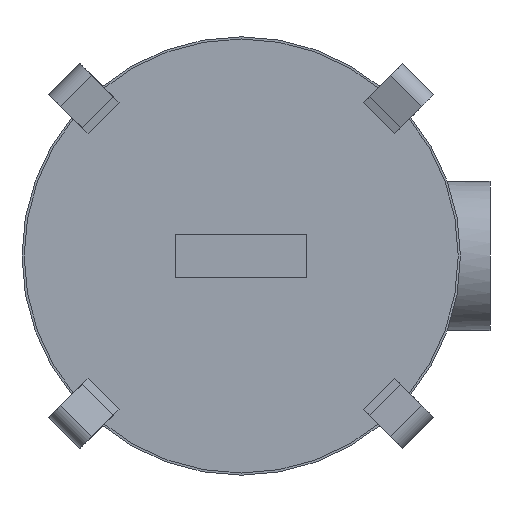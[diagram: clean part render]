
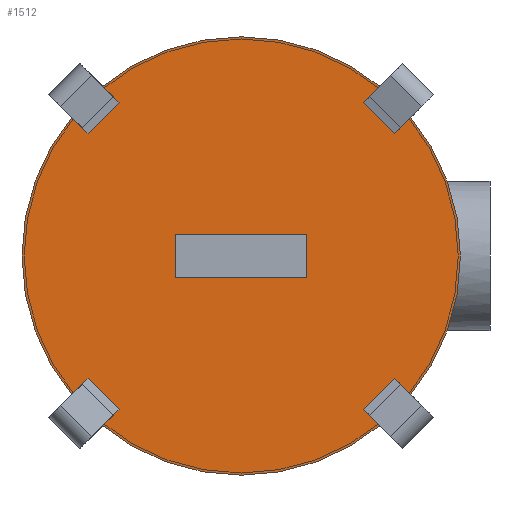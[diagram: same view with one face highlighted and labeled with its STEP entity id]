
A CAD part, front view. The second image highlights one B-rep face of the part: STEP entity #1512.
In plain terms, the highlighted planar face has unit normal (0, -1, 0).
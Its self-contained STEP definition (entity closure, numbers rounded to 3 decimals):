
#13=DIRECTION('',(-0.707,0.,0.707));
#14=VECTOR('',#13,3.788);
#15=CARTESIAN_POINT('',(58.427,-284.,-72.569));
#16=LINE('',#15,#14);
#17=DIRECTION('',(0.707,0.,0.707));
#18=VECTOR('',#17,20.);
#19=CARTESIAN_POINT('',(58.427,-284.,-72.569));
#20=LINE('',#19,#18);
#21=DIRECTION('',(-0.707,0.,0.707));
#22=VECTOR('',#21,3.788);
#23=CARTESIAN_POINT('',(72.569,-284.,-58.427));
#24=LINE('',#23,#22);
#25=DIRECTION('',(0.707,0.,0.707));
#26=VECTOR('',#25,20.);
#27=CARTESIAN_POINT('',(55.748,-284.,-69.89));
#28=LINE('',#27,#26);
#29=DIRECTION('',(0.707,0.,0.707));
#30=VECTOR('',#29,3.788);
#31=CARTESIAN_POINT('',(-72.569,-284.,-58.427));
#32=LINE('',#31,#30);
#33=DIRECTION('',(0.707,0.,-0.707));
#34=VECTOR('',#33,20.);
#35=CARTESIAN_POINT('',(-72.569,-284.,-58.427));
#36=LINE('',#35,#34);
#37=DIRECTION('',(0.707,0.,0.707));
#38=VECTOR('',#37,3.788);
#39=CARTESIAN_POINT('',(-58.427,-284.,-72.569));
#40=LINE('',#39,#38);
#41=DIRECTION('',(0.707,0.,-0.707));
#42=VECTOR('',#41,20.);
#43=CARTESIAN_POINT('',(-69.89,-284.,-55.748));
#44=LINE('',#43,#42);
#45=DIRECTION('',(0.707,0.,-0.707));
#46=VECTOR('',#45,3.788);
#47=CARTESIAN_POINT('',(-58.427,-284.,72.569));
#48=LINE('',#47,#46);
#49=DIRECTION('',(-0.707,0.,-0.707));
#50=VECTOR('',#49,20.);
#51=CARTESIAN_POINT('',(-58.427,-284.,72.569));
#52=LINE('',#51,#50);
#53=DIRECTION('',(0.707,0.,-0.707));
#54=VECTOR('',#53,3.788);
#55=CARTESIAN_POINT('',(-72.569,-284.,58.427));
#56=LINE('',#55,#54);
#57=DIRECTION('',(-0.707,0.,-0.707));
#58=VECTOR('',#57,20.);
#59=CARTESIAN_POINT('',(-55.748,-284.,69.89));
#60=LINE('',#59,#58);
#61=DIRECTION('',(-0.707,0.,-0.707));
#62=VECTOR('',#61,3.788);
#63=CARTESIAN_POINT('',(72.569,-284.,58.427));
#64=LINE('',#63,#62);
#65=DIRECTION('',(-0.707,0.,0.707));
#66=VECTOR('',#65,20.);
#67=CARTESIAN_POINT('',(72.569,-284.,58.427));
#68=LINE('',#67,#66);
#69=DIRECTION('',(-0.707,0.,-0.707));
#70=VECTOR('',#69,3.788);
#71=CARTESIAN_POINT('',(58.427,-284.,72.569));
#72=LINE('',#71,#70);
#73=DIRECTION('',(-0.707,0.,0.707));
#74=VECTOR('',#73,20.);
#75=CARTESIAN_POINT('',(69.89,-284.,55.748));
#76=LINE('',#75,#74);
#77=DIRECTION('',(0.,0.,-1.));
#78=VECTOR('',#77,20.);
#79=CARTESIAN_POINT('',(-30.,-284.,10.));
#80=LINE('',#79,#78);
#81=DIRECTION('',(1.,0.,0.));
#82=VECTOR('',#81,60.);
#83=CARTESIAN_POINT('',(-30.,-284.,-10.));
#84=LINE('',#83,#82);
#85=DIRECTION('',(0.,0.,1.));
#86=VECTOR('',#85,20.);
#87=CARTESIAN_POINT('',(30.,-284.,-10.));
#88=LINE('',#87,#86);
#89=DIRECTION('',(-1.,0.,0.));
#90=VECTOR('',#89,60.);
#91=CARTESIAN_POINT('',(30.,-284.,10.));
#92=LINE('',#91,#90);
#501=CARTESIAN_POINT('',(0.,-284.,0.));
#502=DIRECTION('',(0.,-1.,0.));
#503=DIRECTION('',(0.,0.,-1.));
#504=AXIS2_PLACEMENT_3D('',#501,#502,#503);
#514=CARTESIAN_POINT('',(0.,-284.,0.));
#515=DIRECTION('',(0.,1.,0.));
#516=DIRECTION('',(0.,0.,-1.));
#517=AXIS2_PLACEMENT_3D('',#514,#515,#516);
#1151=CARTESIAN_POINT('',(0.,-284.,-100.));
#1153=VERTEX_POINT('',#1151);
#1163=CARTESIAN_POINT('',(0.,-284.,100.));
#1165=VERTEX_POINT('',#1163);
#1239=CARTESIAN_POINT('',(72.569,-284.,58.427));
#1240=CARTESIAN_POINT('',(69.89,-284.,55.748));
#1241=VERTEX_POINT('',#1239);
#1242=VERTEX_POINT('',#1240);
#1243=CARTESIAN_POINT('',(58.427,-284.,72.569));
#1244=CARTESIAN_POINT('',(55.748,-284.,69.89));
#1245=VERTEX_POINT('',#1243);
#1246=VERTEX_POINT('',#1244);
#1287=CARTESIAN_POINT('',(-58.427,-284.,72.569));
#1288=CARTESIAN_POINT('',(-55.748,-284.,69.89));
#1289=VERTEX_POINT('',#1287);
#1290=VERTEX_POINT('',#1288);
#1291=CARTESIAN_POINT('',(-72.569,-284.,58.427));
#1292=CARTESIAN_POINT('',(-69.89,-284.,55.748));
#1293=VERTEX_POINT('',#1291);
#1294=VERTEX_POINT('',#1292);
#1335=CARTESIAN_POINT('',(-72.569,-284.,-58.427));
#1336=CARTESIAN_POINT('',(-69.89,-284.,-55.748));
#1337=VERTEX_POINT('',#1335);
#1338=VERTEX_POINT('',#1336);
#1339=CARTESIAN_POINT('',(-58.427,-284.,-72.569));
#1340=CARTESIAN_POINT('',(-55.748,-284.,-69.89));
#1341=VERTEX_POINT('',#1339);
#1342=VERTEX_POINT('',#1340);
#1383=CARTESIAN_POINT('',(58.427,-284.,-72.569));
#1384=CARTESIAN_POINT('',(55.748,-284.,-69.89));
#1385=VERTEX_POINT('',#1383);
#1386=VERTEX_POINT('',#1384);
#1387=CARTESIAN_POINT('',(72.569,-284.,-58.427));
#1388=CARTESIAN_POINT('',(69.89,-284.,-55.748));
#1389=VERTEX_POINT('',#1387);
#1390=VERTEX_POINT('',#1388);
#1399=CARTESIAN_POINT('',(-30.,-284.,10.));
#1400=CARTESIAN_POINT('',(-30.,-284.,-10.));
#1401=VERTEX_POINT('',#1399);
#1402=VERTEX_POINT('',#1400);
#1403=CARTESIAN_POINT('',(30.,-284.,-10.));
#1404=VERTEX_POINT('',#1403);
#1405=CARTESIAN_POINT('',(30.,-284.,10.));
#1406=VERTEX_POINT('',#1405);
#1451=CARTESIAN_POINT('',(0.,-284.,0.));
#1452=DIRECTION('',(0.,-1.,0.));
#1453=DIRECTION('',(0.,0.,1.));
#1454=AXIS2_PLACEMENT_3D('',#1451,#1452,#1453);
#1455=PLANE('',#1454);
#1457=ORIENTED_EDGE('',*,*,#1456,.F.);
#1459=ORIENTED_EDGE('',*,*,#1458,.T.);
#1460=EDGE_LOOP('',(#1457,#1459));
#1461=FACE_OUTER_BOUND('',#1460,.F.);
#1463=ORIENTED_EDGE('',*,*,#1462,.F.);
#1465=ORIENTED_EDGE('',*,*,#1464,.T.);
#1467=ORIENTED_EDGE('',*,*,#1466,.T.);
#1469=ORIENTED_EDGE('',*,*,#1468,.F.);
#1470=EDGE_LOOP('',(#1463,#1465,#1467,#1469));
#1471=FACE_BOUND('',#1470,.F.);
#1473=ORIENTED_EDGE('',*,*,#1472,.F.);
#1475=ORIENTED_EDGE('',*,*,#1474,.T.);
#1477=ORIENTED_EDGE('',*,*,#1476,.T.);
#1479=ORIENTED_EDGE('',*,*,#1478,.F.);
#1480=EDGE_LOOP('',(#1473,#1475,#1477,#1479));
#1481=FACE_BOUND('',#1480,.F.);
#1483=ORIENTED_EDGE('',*,*,#1482,.F.);
#1485=ORIENTED_EDGE('',*,*,#1484,.T.);
#1487=ORIENTED_EDGE('',*,*,#1486,.T.);
#1489=ORIENTED_EDGE('',*,*,#1488,.F.);
#1490=EDGE_LOOP('',(#1483,#1485,#1487,#1489));
#1491=FACE_BOUND('',#1490,.F.);
#1493=ORIENTED_EDGE('',*,*,#1492,.F.);
#1495=ORIENTED_EDGE('',*,*,#1494,.T.);
#1497=ORIENTED_EDGE('',*,*,#1496,.T.);
#1499=ORIENTED_EDGE('',*,*,#1498,.F.);
#1500=EDGE_LOOP('',(#1493,#1495,#1497,#1499));
#1501=FACE_BOUND('',#1500,.F.);
#1503=ORIENTED_EDGE('',*,*,#1502,.T.);
#1505=ORIENTED_EDGE('',*,*,#1504,.T.);
#1507=ORIENTED_EDGE('',*,*,#1506,.T.);
#1509=ORIENTED_EDGE('',*,*,#1508,.T.);
#1510=EDGE_LOOP('',(#1503,#1505,#1507,#1509));
#1511=FACE_BOUND('',#1510,.F.);
#1512=ADVANCED_FACE('',(#1461,#1471,#1481,#1491,#1501,#1511),#1455,.T.);
#505=CIRCLE('',#504,100.);
#518=CIRCLE('',#517,100.);
#1456=EDGE_CURVE('',#1153,#1165,#505,.T.);
#1458=EDGE_CURVE('',#1153,#1165,#518,.T.);
#1462=EDGE_CURVE('',#1385,#1386,#16,.T.);
#1464=EDGE_CURVE('',#1385,#1389,#20,.T.);
#1466=EDGE_CURVE('',#1389,#1390,#24,.T.);
#1468=EDGE_CURVE('',#1386,#1390,#28,.T.);
#1472=EDGE_CURVE('',#1337,#1338,#32,.T.);
#1474=EDGE_CURVE('',#1337,#1341,#36,.T.);
#1476=EDGE_CURVE('',#1341,#1342,#40,.T.);
#1478=EDGE_CURVE('',#1338,#1342,#44,.T.);
#1482=EDGE_CURVE('',#1289,#1290,#48,.T.);
#1484=EDGE_CURVE('',#1289,#1293,#52,.T.);
#1486=EDGE_CURVE('',#1293,#1294,#56,.T.);
#1488=EDGE_CURVE('',#1290,#1294,#60,.T.);
#1492=EDGE_CURVE('',#1241,#1242,#64,.T.);
#1494=EDGE_CURVE('',#1241,#1245,#68,.T.);
#1496=EDGE_CURVE('',#1245,#1246,#72,.T.);
#1498=EDGE_CURVE('',#1242,#1246,#76,.T.);
#1502=EDGE_CURVE('',#1401,#1402,#80,.T.);
#1504=EDGE_CURVE('',#1402,#1404,#84,.T.);
#1506=EDGE_CURVE('',#1404,#1406,#88,.T.);
#1508=EDGE_CURVE('',#1406,#1401,#92,.T.);
